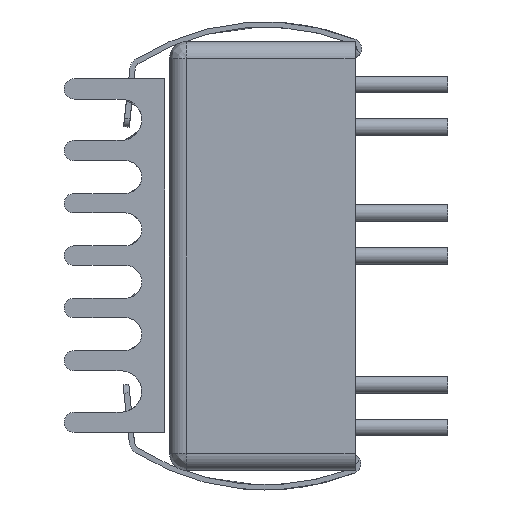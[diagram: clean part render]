
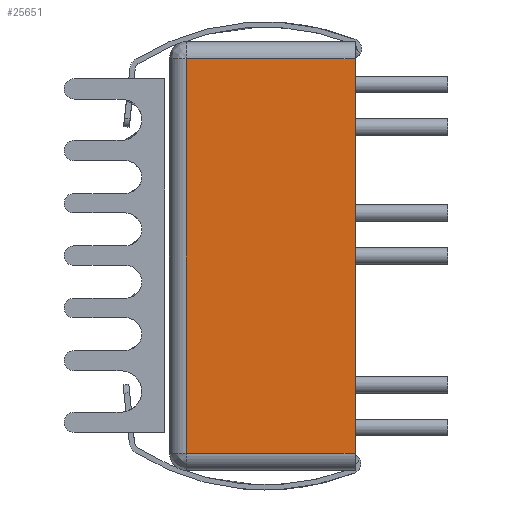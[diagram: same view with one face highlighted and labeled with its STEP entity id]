
A CAD part, left-side view. The second image highlights one B-rep face of the part: STEP entity #25651.
In plain terms, the highlighted planar face has unit normal (-1, 0, 0).
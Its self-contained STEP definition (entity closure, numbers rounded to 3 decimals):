
#507 = DIRECTION ( 'NONE',  ( 0., 1., 0. ) ) ;
#836 = EDGE_CURVE ( 'NONE', #22245, #8032, #19875, .T. ) ;
#1554 = CARTESIAN_POINT ( 'NONE',  ( -50.8, 0., -24.4 ) ) ;
#2254 = LINE ( 'NONE', #19476, #13144 ) ;
#3591 = VECTOR ( 'NONE', #507, 1000. ) ;
#4142 = DIRECTION ( 'NONE',  ( 0., 0., 1. ) ) ;
#4144 = LINE ( 'NONE', #10722, #21073 ) ;
#4373 = AXIS2_PLACEMENT_3D ( 'NONE', #7773, #9908, #24194 ) ;
#5901 = ORIENTED_EDGE ( 'NONE', *, *, #10280, .F. ) ;
#7231 = EDGE_CURVE ( 'NONE', #8523, #16280, #4144, .T. ) ;
#7773 = CARTESIAN_POINT ( 'NONE',  ( -50.8, 11., 0. ) ) ;
#8032 = VERTEX_POINT ( 'NONE', #20650 ) ;
#8523 = VERTEX_POINT ( 'NONE', #18946 ) ;
#9908 = DIRECTION ( 'NONE',  ( 1., 0., 0. ) ) ;
#10280 = EDGE_CURVE ( 'NONE', #8032, #8523, #2254, .T. ) ;
#10722 = CARTESIAN_POINT ( 'NONE',  ( -50.8, 11., -1. ) ) ;
#13144 = VECTOR ( 'NONE', #13236, 1000. ) ;
#13236 = DIRECTION ( 'NONE',  ( 0., 0., 1. ) ) ;
#13287 = CARTESIAN_POINT ( 'NONE',  ( -50.8, 0., -1. ) ) ;
#13406 = EDGE_CURVE ( 'NONE', #22245, #16280, #25761, .T. ) ;
#14855 = VECTOR ( 'NONE', #4142, 1000. ) ;
#16280 = VERTEX_POINT ( 'NONE', #13287 ) ;
#16350 = CARTESIAN_POINT ( 'NONE',  ( -50.8, 0., 0. ) ) ;
#16377 = ORIENTED_EDGE ( 'NONE', *, *, #836, .F. ) ;
#18015 = PLANE ( 'NONE',  #4373 ) ;
#18946 = CARTESIAN_POINT ( 'NONE',  ( -50.8, 10., -1. ) ) ;
#19476 = CARTESIAN_POINT ( 'NONE',  ( -50.8, 10., 0. ) ) ;
#19795 = ORIENTED_EDGE ( 'NONE', *, *, #13406, .T. ) ;
#19875 = LINE ( 'NONE', #20909, #3591 ) ;
#20650 = CARTESIAN_POINT ( 'NONE',  ( -50.8, 10., -24.4 ) ) ;
#20909 = CARTESIAN_POINT ( 'NONE',  ( -50.8, 11., -24.4 ) ) ;
#21073 = VECTOR ( 'NONE', #22945, 1000. ) ;
#22245 = VERTEX_POINT ( 'NONE', #1554 ) ;
#22481 = ORIENTED_EDGE ( 'NONE', *, *, #7231, .F. ) ;
#22945 = DIRECTION ( 'NONE',  ( 0., -1., 0. ) ) ;
#23040 = EDGE_LOOP ( 'NONE', ( #16377, #19795, #22481, #5901 ) ) ;
#24194 = DIRECTION ( 'NONE',  ( 0., 0., -1. ) ) ;
#24965 = FACE_OUTER_BOUND ( 'NONE', #23040, .T. ) ;
#25651 = ADVANCED_FACE ( 'NONE', ( #24965 ), #18015, .F. ) ;
#25761 = LINE ( 'NONE', #16350, #14855 ) ;
